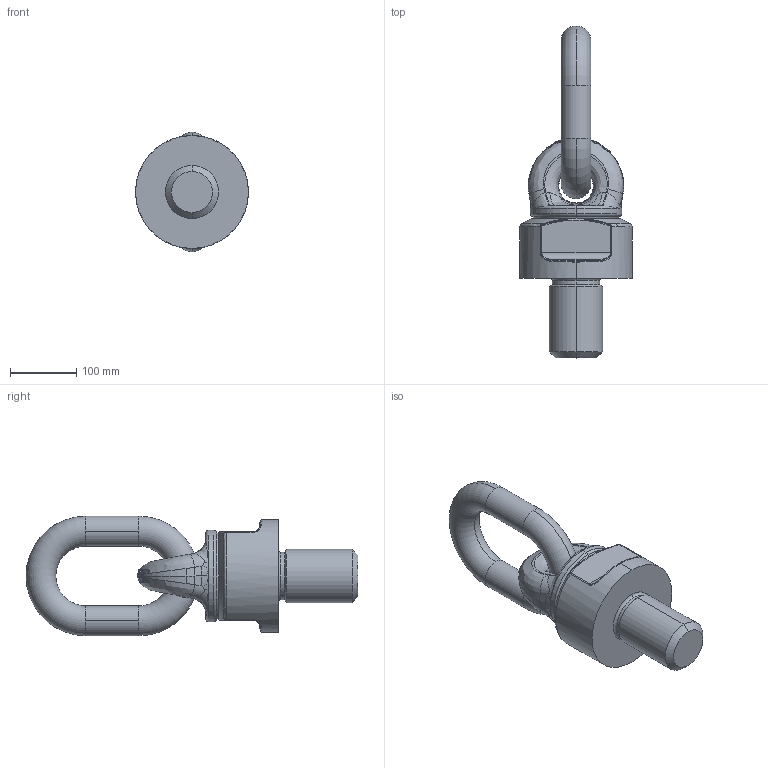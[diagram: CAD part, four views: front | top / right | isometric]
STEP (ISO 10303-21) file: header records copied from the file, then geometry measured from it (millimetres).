
FILE_DESCRIPTION(('STEP AP214'),'1');
FILE_NAME('c8003080120.stp','2017-03-22T14:32:48',('TraceParts'),('TraceParts S.A.'),'Spatial InterOp 3D',' ',' ');
FILE_SCHEMA(('automotive_design'));
Length unit declared in the file: millimetre
Products named in the file (3): c8003080120_1; c8003080120_2; c8003080120_3
Bounding box: 170 x 500 x 180 mm (x, y, z)
Volume: 4115363.7 mm3; surface area: 290459.9 mm2
Topology: 3 solids, 3 shells, 325 faces, 901 edges, 564 vertices
Faces by surface type: bspline 156, plane 67, cone 52, cylinder 26, torus 24
Entity records: 25291 total; most frequent: CARTESIAN_POINT 15283, ORIENTED_EDGE 1768, DIRECTION 1296, EDGE_CURVE 884, VERTEX_POINT 564, AXIS2_PLACEMENT_3D 558, STYLED_ITEM 328, PRESENTATION_STYLE_ASSIGNMENT 328
